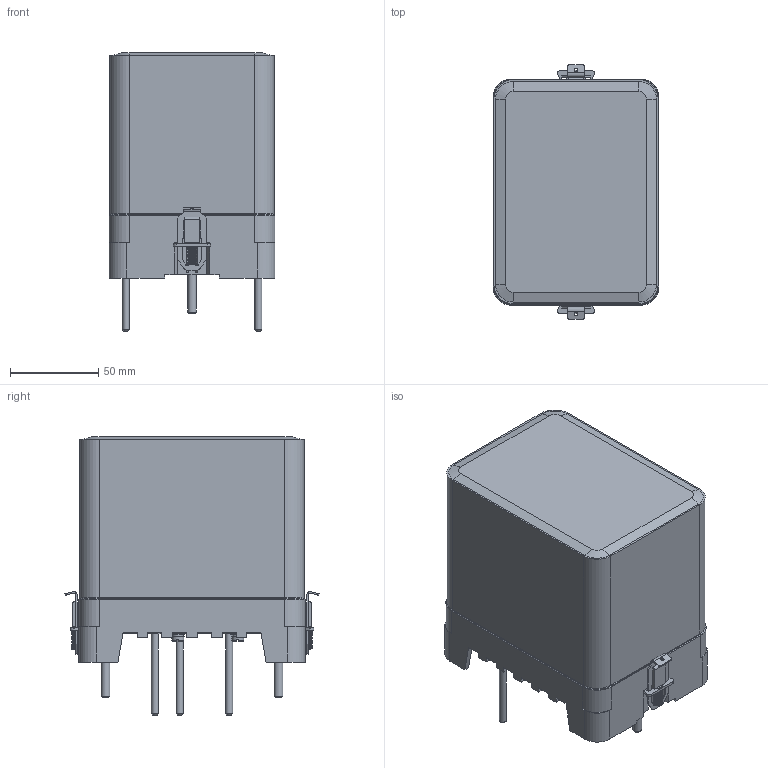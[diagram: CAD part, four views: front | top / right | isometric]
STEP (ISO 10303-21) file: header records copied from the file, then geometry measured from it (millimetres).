
FILE_DESCRIPTION(('STEP AP214'), '1');
FILE_NAME('ÐÂ217, ÐÂ227, ÐÂ237, ÐÂ247 ç.ï.øï', '', ('UNSPECIFIED'), ('UNSPECIFIED'), 'ASCON STEP Converter 1.3', 'ASCON Math Kernel', '');
FILE_SCHEMA(('AUTOMOTIVE_DESIGN { 1 0 10303 214 3 1 1}'));
Length unit declared in the file: millimetre
Bounding box: 94 x 144 x 157.5 mm (x, y, z)
Volume: 224424.5 mm3; surface area: 156623 mm2
Topology: 2 solids, 2 shells, 995 faces, 2524 edges, 1555 vertices
Faces by surface type: plane 567, cylinder 284, torus 79, cone 30, sphere 29, bspline 6
Full cylindrical faces by diameter (mm): 2 x2, 3.3 x7, 3.5 x2, 4 x14, 4.3 x3, 4.5 x5, 5 x2, 5.5 x20, 8 x3, 11 x2
Entity records: 45946 total; most frequent: CARTESIAN_POINT 14216, DIRECTION 4992, ORIENTED_EDGE 4784, EDGE_CURVE 2392, AXIS2_PLACEMENT_3D 1711, LINE 1570, VECTOR 1570, VERTEX_POINT 1549
